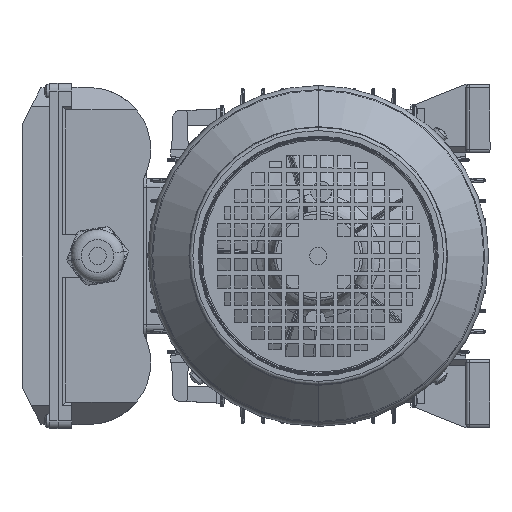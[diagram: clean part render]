
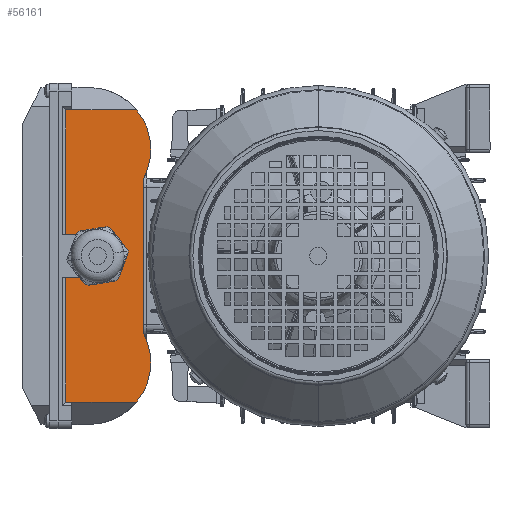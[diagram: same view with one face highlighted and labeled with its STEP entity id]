
A CAD part, left-side view. The second image highlights one B-rep face of the part: STEP entity #56161.
In plain terms, the highlighted planar face has unit normal (-1, 0, 0) as drawn and (0, 0, -1) by its records, which use the part's own axes.
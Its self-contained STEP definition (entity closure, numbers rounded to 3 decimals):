
#1089 = VERTEX_POINT ( 'NONE', #49852 ) ;
#1190 = CARTESIAN_POINT ( 'NONE',  ( -62., 6.75, -68. ) ) ;
#2006 = DIRECTION ( 'NONE',  ( 0., 1., 0. ) ) ;
#2118 = DIRECTION ( 'NONE',  ( 0., 0., -1. ) ) ;
#3139 = CARTESIAN_POINT ( 'NONE',  ( 0., 1.75, -68. ) ) ;
#6803 = DIRECTION ( 'NONE',  ( 0., 1., 0. ) ) ;
#8119 = DIRECTION ( 'NONE',  ( 0., 1., 0. ) ) ;
#8932 = LINE ( 'NONE', #101679, #143854 ) ;
#9170 = CARTESIAN_POINT ( 'NONE',  ( -85.065, -29.25, -68. ) ) ;
#9700 = VECTOR ( 'NONE', #141691, 1000. ) ;
#10579 = VERTEX_POINT ( 'NONE', #49346 ) ;
#10582 = ORIENTED_EDGE ( 'NONE', *, *, #106739, .T. ) ;
#10794 = CARTESIAN_POINT ( 'NONE',  ( -85.065, -45.25, -68. ) ) ;
#12317 = VERTEX_POINT ( 'NONE', #33545 ) ;
#12494 = CARTESIAN_POINT ( 'NONE',  ( -119.5, -29.25, -68. ) ) ;
#12843 = FACE_OUTER_BOUND ( 'NONE', #93107, .T. ) ;
#13019 = CARTESIAN_POINT ( 'NONE',  ( -44.572, -24.75, -68. ) ) ;
#14558 = VECTOR ( 'NONE', #118127, 1000. ) ;
#17444 = CARTESIAN_POINT ( 'NONE',  ( -85.065, 16.75, -68. ) ) ;
#19812 = VECTOR ( 'NONE', #126189, 1000. ) ;
#21329 = CARTESIAN_POINT ( 'NONE',  ( -44.572, -24.75, -68. ) ) ;
#22025 = CARTESIAN_POINT ( 'NONE',  ( 62., 6.75, -68. ) ) ;
#25315 = CARTESIAN_POINT ( 'NONE',  ( -119.5, 20.25, -68. ) ) ;
#25587 = VECTOR ( 'NONE', #2006, 1000. ) ;
#26351 = EDGE_CURVE ( 'NONE', #1089, #70443, #154023, .T. ) ;
#27129 = CARTESIAN_POINT ( 'NONE',  ( -12.5, 1.75, -68. ) ) ;
#28628 = EDGE_CURVE ( 'NONE', #12317, #142261, #132871, .T. ) ;
#31128 = DIRECTION ( 'NONE',  ( 0., -1., 0. ) ) ;
#31469 = ORIENTED_EDGE ( 'NONE', *, *, #152639, .F. ) ;
#31892 = EDGE_CURVE ( 'NONE', #125950, #45804, #39882, .T. ) ;
#32026 = LINE ( 'NONE', #123859, #69453 ) ;
#33099 = LINE ( 'NONE', #27129, #25587 ) ;
#33545 = CARTESIAN_POINT ( 'NONE',  ( -85.065, -20.891, -68. ) ) ;
#38941 = LINE ( 'NONE', #10794, #14558 ) ;
#39882 = LINE ( 'NONE', #25315, #67965 ) ;
#41596 = LINE ( 'NONE', #21329, #9700 ) ;
#41620 = VERTEX_POINT ( 'NONE', #136621 ) ;
#42149 = ORIENTED_EDGE ( 'NONE', *, *, #62745, .F. ) ;
#43012 = CARTESIAN_POINT ( 'NONE',  ( 85.065, -20.891, -68. ) ) ;
#45804 = VERTEX_POINT ( 'NONE', #92592 ) ;
#49346 = CARTESIAN_POINT ( 'NONE',  ( 44.572, -24.75, -68. ) ) ;
#49400 = ORIENTED_EDGE ( 'NONE', *, *, #83584, .F. ) ;
#49852 = CARTESIAN_POINT ( 'NONE',  ( 12.5, 1.75, -68. ) ) ;
#52082 = ORIENTED_EDGE ( 'NONE', *, *, #31892, .T. ) ;
#54451 = VERTEX_POINT ( 'NONE', #144271 ) ;
#56161 = ADVANCED_FACE ( 'NONE', ( #12843 ), #61700, .F. ) ;
#57392 = ORIENTED_EDGE ( 'NONE', *, *, #84104, .T. ) ;
#61184 = DIRECTION ( 'NONE',  ( 1., 0., 0. ) ) ;
#61700 = PLANE ( 'NONE',  #111079 ) ;
#62077 = ORIENTED_EDGE ( 'NONE', *, *, #141602, .T. ) ;
#62745 = EDGE_CURVE ( 'NONE', #142261, #10579, #41596, .T. ) ;
#63028 = CARTESIAN_POINT ( 'NONE',  ( -85.065, 20.25, -68. ) ) ;
#67965 = VECTOR ( 'NONE', #120601, 1000. ) ;
#69453 = VECTOR ( 'NONE', #86293, 1000. ) ;
#69605 = AXIS2_PLACEMENT_3D ( 'NONE', #22025, #142381, #153891 ) ;
#70443 = VERTEX_POINT ( 'NONE', #152942 ) ;
#72779 = DIRECTION ( 'NONE',  ( 0., 0., 1. ) ) ;
#74003 = DIRECTION ( 'NONE',  ( 0., 0., 1. ) ) ;
#76373 = LINE ( 'NONE', #9170, #147426 ) ;
#80955 = CIRCLE ( 'NONE', #69605, 36. ) ;
#83584 = EDGE_CURVE ( 'NONE', #41620, #1089, #148935, .T. ) ;
#84104 = EDGE_CURVE ( 'NONE', #41620, #94717, #132169, .T. ) ;
#86293 = DIRECTION ( 'NONE',  ( 0., -1., 0. ) ) ;
#86597 = DIRECTION ( 'NONE',  ( 1., 0., 0. ) ) ;
#92592 = CARTESIAN_POINT ( 'NONE',  ( -12.5, 20.25, -68. ) ) ;
#93107 = EDGE_LOOP ( 'NONE', ( #52082, #112096, #105111, #49400, #57392, #62077, #31469, #149233, #42149, #117388, #108405, #10582 ) ) ;
#94374 = AXIS2_PLACEMENT_3D ( 'NONE', #3139, #2118, #99015 ) ;
#94717 = VERTEX_POINT ( 'NONE', #133057 ) ;
#99015 = DIRECTION ( 'NONE',  ( 1., 0., 0. ) ) ;
#99826 = VERTEX_POINT ( 'NONE', #17444 ) ;
#101679 = CARTESIAN_POINT ( 'NONE',  ( 85.065, -45.25, -68. ) ) ;
#105111 = ORIENTED_EDGE ( 'NONE', *, *, #26351, .F. ) ;
#106739 = EDGE_CURVE ( 'NONE', #99826, #125950, #76373, .T. ) ;
#108405 = ORIENTED_EDGE ( 'NONE', *, *, #142804, .T. ) ;
#111079 = AXIS2_PLACEMENT_3D ( 'NONE', #12494, #72779, #61184 ) ;
#112096 = ORIENTED_EDGE ( 'NONE', *, *, #123757, .F. ) ;
#117388 = ORIENTED_EDGE ( 'NONE', *, *, #28628, .F. ) ;
#118127 = DIRECTION ( 'NONE',  ( 0., 1., 0. ) ) ;
#120601 = DIRECTION ( 'NONE',  ( 1., 0., 0. ) ) ;
#123757 = EDGE_CURVE ( 'NONE', #70443, #45804, #33099, .T. ) ;
#123859 = CARTESIAN_POINT ( 'NONE',  ( 85.065, -29.25, -68. ) ) ;
#125950 = VERTEX_POINT ( 'NONE', #63028 ) ;
#126189 = DIRECTION ( 'NONE',  ( 1., 0., 0. ) ) ;
#132169 = LINE ( 'NONE', #148183, #19812 ) ;
#132871 = CIRCLE ( 'NONE', #136654, 36. ) ;
#133057 = CARTESIAN_POINT ( 'NONE',  ( 85.065, 20.25, -68. ) ) ;
#136621 = CARTESIAN_POINT ( 'NONE',  ( 12.5, 20.25, -68. ) ) ;
#136654 = AXIS2_PLACEMENT_3D ( 'NONE', #1190, #74003, #86597 ) ;
#139661 = VECTOR ( 'NONE', #31128, 1000. ) ;
#141602 = EDGE_CURVE ( 'NONE', #94717, #54451, #32026, .T. ) ;
#141691 = DIRECTION ( 'NONE',  ( 1., 0., 0. ) ) ;
#142261 = VERTEX_POINT ( 'NONE', #13019 ) ;
#142381 = DIRECTION ( 'NONE',  ( 0., 0., 1. ) ) ;
#142804 = EDGE_CURVE ( 'NONE', #12317, #99826, #38941, .T. ) ;
#143854 = VECTOR ( 'NONE', #6803, 1000. ) ;
#144271 = CARTESIAN_POINT ( 'NONE',  ( 85.065, 16.75, -68. ) ) ;
#147426 = VECTOR ( 'NONE', #8119, 1000. ) ;
#147815 = VERTEX_POINT ( 'NONE', #43012 ) ;
#147868 = EDGE_CURVE ( 'NONE', #10579, #147815, #80955, .T. ) ;
#148183 = CARTESIAN_POINT ( 'NONE',  ( -119.5, 20.25, -68. ) ) ;
#148935 = LINE ( 'NONE', #150434, #139661 ) ;
#149233 = ORIENTED_EDGE ( 'NONE', *, *, #147868, .F. ) ;
#150434 = CARTESIAN_POINT ( 'NONE',  ( 12.5, 1.75, -68. ) ) ;
#152639 = EDGE_CURVE ( 'NONE', #147815, #54451, #8932, .T. ) ;
#152942 = CARTESIAN_POINT ( 'NONE',  ( -12.5, 1.75, -68. ) ) ;
#153891 = DIRECTION ( 'NONE',  ( 1., 0., 0. ) ) ;
#154023 = CIRCLE ( 'NONE', #94374, 12.5 ) ;
